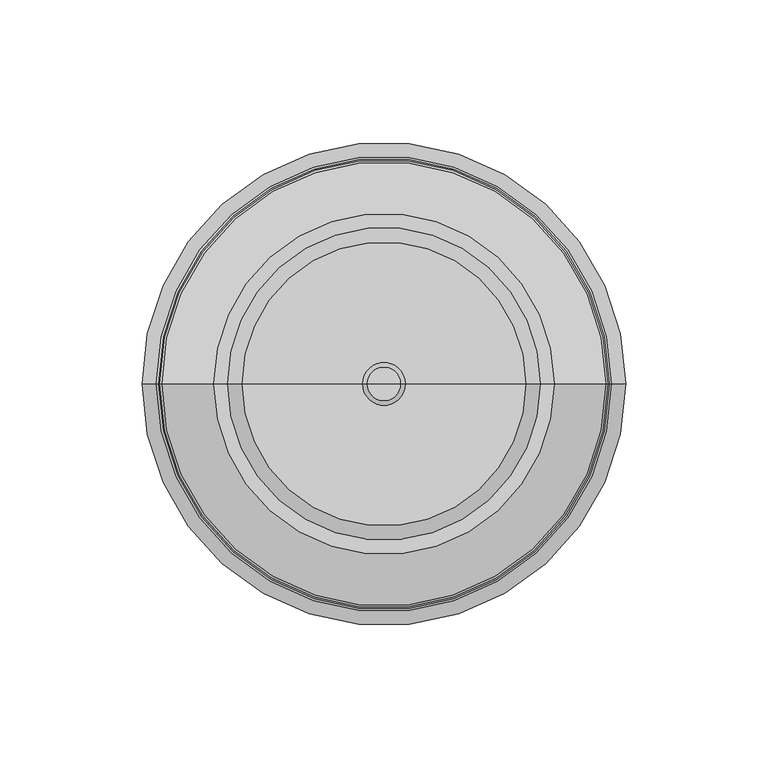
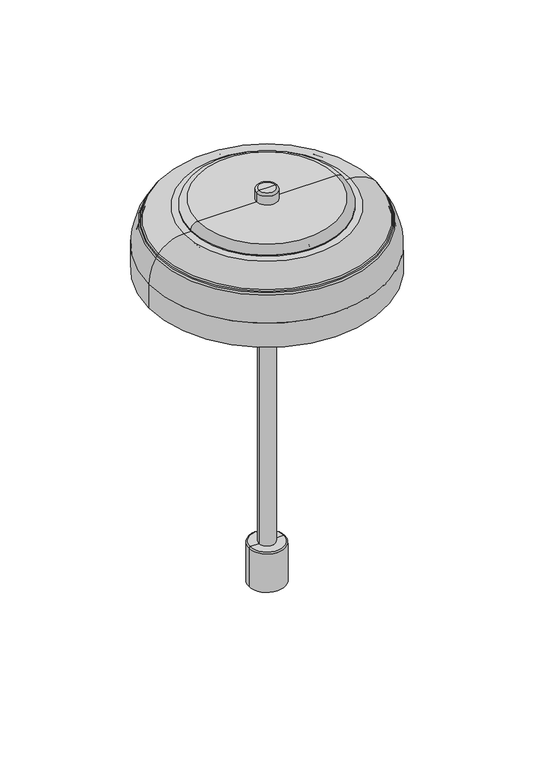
"""IFC4 building model written with IfcOpenShell, lengths in millimetres: light fixture geometry, Nuura - Blossi - Table In-Set Small : Nuura - Blossi - Table In-Set Small."""

from ifc_helpers import new_model, si_unit, point, frame, origin, origin_with_axes, place, context, project, spatial, polyline, circle_curve, ellipse_curve, trimmed, source, transform, mapped, element, save
from ifc_brep_helpers import plane_surface, cylinder_surface, revolved_surface, advanced_brep


def light_fixture_892723d8(model_context):
    return source(origin(), model_context, "Body", "AdvancedBrep", [
        advanced_brep(
        [(-60.0, 0.0, 281.2), (60.0, 0.0, 281.2), (0.0, 0.0, 281.2), (-74.2433676, 0.0, 275.3165279), (74.2433676, 0.0, 275.3165279), (-74.9468549, 0.0, 274.5804612), (74.9468549, 0.0, 274.5804612), (-76.2305487, 0.0, 272.9610633), (76.2305487, 0.0, 272.9610633), (-76.7866873, 0.0, 272.108081), (76.7866873, 0.0, 272.108081), (-82.0, 0.0, 254.5667504), (82.0, 0.0, 254.5667504), (-82.0, 0.0, 236.5667504), (82.0, 0.0, 236.5667504), (-85.0, 0.0, 236.5667504), (85.0, 0.0, 236.5667504), (-85.0, 0.0, 254.5667504), (85.0, 0.0, 254.5667504), (-80.1645125, 0.0, 272.4944598), (80.1645125, 0.0, 272.4944598), (-79.4063661, 0.0, 273.7976404), (79.4063661, 0.0, 273.7976404), (-78.9160333, 0.0, 274.5141966), (78.9160333, 0.0, 274.5141966), (-78.1680574, 0.0, 275.4519227), (78.1680574, 0.0, 275.4519227), (-60.0, 0.0, 284.2), (60.0, 0.0, 284.2), (0.0, 0.0, 284.2)],
        [
            (0, 1, circle_curve(frame((0.0, 0.0, 281.2), z_axis=(0.0, 0.0, -1.0), x_axis=(1.0, 0.0, 0.0)), 60.0)),
            (1, 2),
            (2, 0),
            (1, 0, circle_curve(frame((0.0, 0.0, 281.2), z_axis=(0.0, 0.0, -1.0), x_axis=(1.0, 0.0, 0.0)), 60.0)),
            (3, 4, circle_curve(frame((0.0, 0.0, 275.3165279), z_axis=(0.0, 0.0, -1.0), x_axis=(1.0, 0.0, 0.0)), 74.2433676)),
            (4, 1, circle_curve(frame((60.0, 0.0, 261.0172948), z_axis=(0.0, -1.0, 0.0), x_axis=(1.0, 0.0, 0.0)), 20.1827052)),
            (0, 3, circle_curve(frame((-60.0, 0.0, 261.0172948), z_axis=(0.0, -1.0, 0.0), x_axis=(-1.0, 0.0, 0.0)), 20.1827052)),
            (4, 3, circle_curve(frame((0.0, 0.0, 275.3165279), z_axis=(0.0, 0.0, -1.0), x_axis=(1.0, 0.0, 0.0)), 74.2433676)),
            (5, 6, circle_curve(frame((0.0, 0.0, 274.5804612), z_axis=(0.0, 0.0, -1.0), x_axis=(1.0, 0.0, 0.0)), 74.9468549)),
            (6, 4),
            (3, 5),
            (6, 5, circle_curve(frame((0.0, 0.0, 274.5804612), z_axis=(0.0, 0.0, -1.0), x_axis=(1.0, 0.0, 0.0)), 74.9468549)),
            (7, 8, circle_curve(frame((0.0, 0.0, 272.9610633), z_axis=(0.0, 0.0, -1.0), x_axis=(1.0, 0.0, 0.0)), 76.2305487)),
            (8, 6, circle_curve(frame((66.8599569, 0.0, 266.8515019), z_axis=(0.0, -1.0, 0.0), x_axis=(1.0, 0.0, 0.0)), 11.1863636)),
            (5, 7, circle_curve(frame((-66.8599569, 0.0, 266.8515019), z_axis=(0.0, -1.0, 0.0), x_axis=(-1.0, 0.0, 0.0)), 11.1863636)),
            (8, 7, circle_curve(frame((0.0, 0.0, 272.9610633), z_axis=(0.0, 0.0, -1.0), x_axis=(1.0, 0.0, 0.0)), 76.2305487)),
            (9, 10, circle_curve(frame((0.0, 0.0, 272.108081), z_axis=(0.0, 0.0, -1.0), x_axis=(1.0, 0.0, 0.0)), 76.7866873)),
            (10, 8),
            (7, 9),
            (10, 9, circle_curve(frame((0.0, 0.0, 272.108081), z_axis=(0.0, 0.0, -1.0), x_axis=(1.0, 0.0, 0.0)), 76.7866873)),
            (11, 12, circle_curve(frame((0.0, 0.0, 254.5667504), z_axis=(0.0, 0.0, -1.0), x_axis=(1.0, 0.0, 0.0)), 82.0)),
            (12, 10, circle_curve(frame((49.8825225, 0.0, 254.5667504), z_axis=(0.0, -1.0, 0.0), x_axis=(1.0, 0.0, 0.0)), 32.1174775)),
            (9, 11, circle_curve(frame((-49.8825225, 0.0, 254.5667504), z_axis=(0.0, -1.0, 0.0), x_axis=(-1.0, 0.0, 0.0)), 32.1174775)),
            (12, 11, circle_curve(frame((0.0, 0.0, 254.5667504), z_axis=(0.0, 0.0, -1.0), x_axis=(1.0, 0.0, 0.0)), 82.0)),
            (13, 14, circle_curve(frame((0.0, 0.0, 236.5667504), z_axis=(0.0, 0.0, -1.0), x_axis=(1.0, 0.0, 0.0)), 82.0)),
            (14, 12),
            (11, 13),
            (14, 13, circle_curve(frame((0.0, 0.0, 236.5667504), z_axis=(0.0, 0.0, -1.0), x_axis=(1.0, 0.0, 0.0)), 82.0)),
            (15, 16, circle_curve(frame((0.0, 0.0, 236.5667504), z_axis=(0.0, 0.0, -1.0), x_axis=(1.0, 0.0, 0.0)), 85.0)),
            (16, 14),
            (13, 15),
            (16, 15, circle_curve(frame((0.0, 0.0, 236.5667504), z_axis=(0.0, 0.0, -1.0), x_axis=(1.0, 0.0, 0.0)), 85.0)),
            (17, 18, circle_curve(frame((0.0, 0.0, 254.5667504), z_axis=(0.0, 0.0, -1.0), x_axis=(1.0, 0.0, 0.0)), 85.0)),
            (18, 16),
            (15, 17),
            (18, 17, circle_curve(frame((0.0, 0.0, 254.5667504), z_axis=(0.0, 0.0, -1.0), x_axis=(1.0, 0.0, 0.0)), 85.0)),
            (19, 20, circle_curve(frame((0.0, 0.0, 272.4944598), z_axis=(0.0, 0.0, -1.0), x_axis=(1.0, 0.0, 0.0)), 80.1645125)),
            (20, 18, circle_curve(frame((49.3485064, 0.0, 254.5667504), z_axis=(0.0, 1.0, 0.0), x_axis=(1.0, 0.0, 0.0)), 35.6514936)),
            (17, 19, circle_curve(frame((-49.3485064, 0.0, 254.5667504), z_axis=(0.0, 1.0, 0.0), x_axis=(-1.0, 0.0, 0.0)), 35.6514936)),
            (20, 19, circle_curve(frame((0.0, 0.0, 272.4944598), z_axis=(0.0, 0.0, -1.0), x_axis=(1.0, 0.0, 0.0)), 80.1645125)),
            (21, 22, circle_curve(frame((0.0, 0.0, 273.7976404), z_axis=(0.0, 0.0, -1.0), x_axis=(1.0, 0.0, 0.0)), 79.4063661)),
            (22, 20),
            (19, 21),
            (22, 21, circle_curve(frame((0.0, 0.0, 273.7976404), z_axis=(0.0, 0.0, -1.0), x_axis=(1.0, 0.0, 0.0)), 79.4063661)),
            (23, 24, circle_curve(frame((0.0, 0.0, 274.5141966), z_axis=(0.0, 0.0, -1.0), x_axis=(1.0, 0.0, 0.0)), 78.9160333)),
            (24, 22, circle_curve(frame((74.2754735, 0.0, 270.8126608), z_axis=(0.0, 1.0, 0.0), x_axis=(1.0, 0.0, 0.0)), 5.9360056)),
            (21, 23, circle_curve(frame((-74.2754735, 0.0, 270.8126608), z_axis=(0.0, 1.0, 0.0), x_axis=(-1.0, 0.0, 0.0)), 5.9360056)),
            (24, 23, circle_curve(frame((0.0, 0.0, 274.5141966), z_axis=(0.0, 0.0, -1.0), x_axis=(1.0, 0.0, 0.0)), 78.9160333)),
            (25, 26, circle_curve(frame((0.0, 0.0, 275.4519227), z_axis=(0.0, 0.0, -1.0), x_axis=(1.0, 0.0, 0.0)), 78.1680574)),
            (26, 24),
            (23, 25),
            (26, 25, circle_curve(frame((0.0, 0.0, 275.4519227), z_axis=(0.0, 0.0, -1.0), x_axis=(1.0, 0.0, 0.0)), 78.1680574)),
            (27, 28, circle_curve(frame((0.0, 0.0, 284.2), z_axis=(0.0, 0.0, -1.0), x_axis=(1.0, 0.0, 0.0)), 60.0)),
            (28, 26, circle_curve(frame((60.0, 0.0, 260.9601981), z_axis=(0.0, 1.0, 0.0), x_axis=(1.0, 0.0, 0.0)), 23.2398019)),
            (25, 27, circle_curve(frame((-60.0, 0.0, 260.9601981), z_axis=(0.0, 1.0, 0.0), x_axis=(-1.0, 0.0, 0.0)), 23.2398019)),
            (28, 27, circle_curve(frame((0.0, 0.0, 284.2), z_axis=(0.0, 0.0, -1.0), x_axis=(1.0, 0.0, 0.0)), 60.0)),
            (29, 28),
            (27, 29),
        ],
        [
            plane_surface(frame((0.0, 0.0, 281.2), z_axis=(0.0, 0.0, -1.0), x_axis=(1.0, 0.0, 0.0))),
            revolved_surface(trimmed(ellipse_curve(frame((60.0, 0.0, 261.0172948), z_axis=(0.0, 1.0, 0.0), x_axis=(1.0, 0.0, 0.0)), 20.1827052, 20.1827052), [point((60.0, 0.0, 281.2))], [point((74.2433676, 0.0, 275.3165279))], True, "CARTESIAN"), (0.0, 0.0, 330.5834276), (0.0, 0.0, 1.0)),
            revolved_surface(polyline([(74.2433676, 0.0, 275.3165279), (74.9468549, 0.0, 274.5804612)]), (0.0, 0.0, 330.5834276), (0.0, 0.0, 1.0)),
            revolved_surface(trimmed(ellipse_curve(frame((66.8599569, 0.0, 266.8515019), z_axis=(0.0, 1.0, 0.0), x_axis=(1.0, 0.0, 0.0)), 11.1863636, 11.1863636), [point((74.9468549, 0.0, 274.5804612))], [point((76.2305487, 0.0, 272.9610633))], True, "CARTESIAN"), (0.0, 0.0, 330.5834276), (0.0, 0.0, 1.0)),
            revolved_surface(polyline([(76.2305487, 0.0, 272.9610633), (76.7866873, 0.0, 272.108081)]), (0.0, 0.0, 330.5834276), (0.0, 0.0, 1.0)),
            revolved_surface(trimmed(ellipse_curve(frame((49.8825225, 0.0, 254.5667504), z_axis=(0.0, 1.0, 0.0), x_axis=(1.0, 0.0, 0.0)), 32.1174775, 32.1174775), [point((76.7866873, 0.0, 272.108081))], [point((82.0, 0.0, 254.5667504))], True, "CARTESIAN"), (0.0, 0.0, 330.5834276), (0.0, 0.0, 1.0)),
            revolved_surface(polyline([(82.0, 0.0, 254.5667504), (82.0, 0.0, 236.5667504)]), (0.0, 0.0, 330.5834276), (0.0, 0.0, 1.0)),
            plane_surface(frame((0.0, 0.0, 236.5667504), z_axis=(0.0, 0.0, -1.0), x_axis=(1.0, 0.0, 0.0))),
            cylinder_surface(frame((0.0, 0.0, 330.5834276), z_axis=(0.0, 0.0, 1.0), x_axis=(1.0, 0.0, 0.0)), 85.0),
            revolved_surface(trimmed(ellipse_curve(frame((49.3485064, 0.0, 254.5667504), z_axis=(0.0, -1.0, 0.0), x_axis=(1.0, 0.0, 0.0)), 35.6514936, 35.6514936), [point((85.0, 0.0, 254.5667504))], [point((80.1645125, 0.0, 272.4944598))], True, "CARTESIAN"), (0.0, 0.0, 330.5834276), (0.0, 0.0, 1.0)),
            revolved_surface(polyline([(80.1645125, 0.0, 272.4944598), (79.4063661, 0.0, 273.7976404)]), (0.0, 0.0, 330.5834276), (0.0, 0.0, 1.0)),
            revolved_surface(trimmed(ellipse_curve(frame((74.2754735, 0.0, 270.8126608), z_axis=(0.0, -1.0, 0.0), x_axis=(1.0, 0.0, 0.0)), 5.9360056, 5.9360056), [point((79.4063661, 0.0, 273.7976404))], [point((78.9160333, 0.0, 274.5141966))], True, "CARTESIAN"), (0.0, 0.0, 330.5834276), (0.0, 0.0, 1.0)),
            revolved_surface(polyline([(78.9160333, 0.0, 274.5141966), (78.1680574, 0.0, 275.4519227)]), (0.0, 0.0, 330.5834276), (0.0, 0.0, 1.0)),
            revolved_surface(trimmed(ellipse_curve(frame((60.0, 0.0, 260.9601981), z_axis=(0.0, -1.0, 0.0), x_axis=(1.0, 0.0, 0.0)), 23.2398019, 23.2398019), [point((78.1680574, 0.0, 275.4519227))], [point((60.0, 0.0, 284.2))], True, "CARTESIAN"), (0.0, 0.0, 330.5834276), (0.0, 0.0, 1.0)),
            plane_surface(frame((0.0, 0.0, 284.2), z_axis=(0.0, 0.0, 1.0), x_axis=(1.0, 0.0, 0.0))),
        ],
        [
            (0, [[1, 2, 3]]),
            (0, [[4, -3, -2]]),
            (1, [[5, 6, -1, 7]]),
            (1, [[8, -7, -4, -6]]),
            (2, [[9, 10, -5, 11]]),
            (2, [[12, -11, -8, -10]]),
            (3, [[13, 14, -9, 15]]),
            (3, [[16, -15, -12, -14]]),
            (4, [[17, 18, -13, 19]]),
            (4, [[20, -19, -16, -18]]),
            (5, [[21, 22, -17, 23]]),
            (5, [[24, -23, -20, -22]]),
            (6, [[25, 26, -21, 27]]),
            (6, [[28, -27, -24, -26]]),
            (7, [[29, 30, -25, 31]]),
            (7, [[32, -31, -28, -30]]),
            (8, [[33, 34, -29, 35]]),
            (8, [[36, -35, -32, -34]]),
            (9, [[37, 38, -33, 39]]),
            (9, [[40, -39, -36, -38]]),
            (10, [[41, 42, -37, 43]]),
            (10, [[44, -43, -40, -42]]),
            (11, [[45, 46, -41, 47]]),
            (11, [[48, -47, -44, -46]]),
            (12, [[49, 50, -45, 51]]),
            (12, [[52, -51, -48, -50]]),
            (13, [[53, 54, -49, 55]]),
            (13, [[56, -55, -52, -54]]),
            (14, [[57, -53, 58]]),
            (14, [[-58, -56, -57]]),
        ],
    ),
        advanced_brep(
        [(-5.85, 0.0, 274.3165279), (5.85, 0.0, 274.3165279), (5.85, 0.0, 251.5), (-5.85, 0.0, 251.5), (0.0, 0.0, 274.3165279), (0.0, 0.0, 251.5)],
        [
            (0, 1, circle_curve(frame((0.0, 0.0, 274.3165279), z_axis=(0.0, 0.0, -1.0), x_axis=(1.0, 0.0, 0.0)), 5.85)),
            (1, 2),
            (2, 3, circle_curve(frame((0.0, 0.0, 251.5), z_axis=(0.0, 0.0, 1.0), x_axis=(1.0, 0.0, 0.0)), 5.85)),
            (3, 0),
            (1, 0, circle_curve(frame((0.0, 0.0, 274.3165279), z_axis=(0.0, 0.0, -1.0), x_axis=(1.0, 0.0, 0.0)), 5.85)),
            (3, 2, circle_curve(frame((0.0, 0.0, 251.5), z_axis=(0.0, 0.0, 1.0), x_axis=(1.0, 0.0, 0.0)), 5.85)),
            (4, 1),
            (0, 4),
            (2, 5),
            (5, 3),
        ],
        [
            cylinder_surface(frame((0.0, 0.0, -478.1232635), z_axis=(0.0, 0.0, 1.0), x_axis=(1.0, 0.0, 0.0)), 5.85),
            plane_surface(frame((0.0, 0.0, 274.3165279), z_axis=(0.0, 0.0, 1.0), x_axis=(1.0, 0.0, 0.0))),
            plane_surface(frame((0.0, 0.0, 251.5), z_axis=(0.0, 0.0, -1.0), x_axis=(1.0, 0.0, 0.0))),
        ],
        [
            (0, [[1, 2, 3, 4]]),
            (0, [[5, -4, 6, -2]]),
            (1, [[7, -1, 8]]),
            (1, [[-8, -5, -7]]),
            (2, [[-3, 9, 10]]),
            (2, [[-6, -10, -9]]),
        ],
    ),
        advanced_brep(
        [(-13.0, 0.0, 29.0), (13.0, 0.0, 29.0), (13.0, 0.0, 0.0), (-13.0, 0.0, 0.0), (-5.85, 0.0, 30.0), (5.85, 0.0, 30.0), (12.0, 0.0, 30.0), (-12.0, 0.0, 30.0), (-5.85, 0.0, 245.5434833), (5.85, 0.0, 245.5434833), (-24.651321, 0.0, 245.5434833), (24.651321, 0.0, 245.5434833), (-27.651321, 0.0, 248.5434833), (27.651321, 0.0, 248.5434833), (-24.651321, 0.0, 251.5434833), (24.651321, 0.0, 251.5434833), (0.0, 0.0, 251.5434833), (0.0, 0.0, 0.0)],
        [
            (0, 1, circle_curve(frame((0.0, 0.0, 29.0), z_axis=(0.0, 0.0, -1.0), x_axis=(1.0, 0.0, 0.0)), 13.0)),
            (1, 2),
            (2, 3, circle_curve(origin_with_axes(), 13.0)),
            (3, 0),
            (1, 0, circle_curve(frame((0.0, 0.0, 29.0), z_axis=(0.0, 0.0, -1.0), x_axis=(1.0, 0.0, 0.0)), 13.0)),
            (3, 2, circle_curve(origin_with_axes(), 13.0)),
            (4, 5, circle_curve(frame((0.0, 0.0, 30.0), z_axis=(0.0, 0.0, -1.0), x_axis=(1.0, 0.0, 0.0)), 5.85)),
            (5, 6),
            (6, 7, circle_curve(frame((0.0, 0.0, 30.0), z_axis=(0.0, 0.0, 1.0), x_axis=(1.0, 0.0, 0.0)), 12.0)),
            (7, 4),
            (5, 4, circle_curve(frame((0.0, 0.0, 30.0), z_axis=(0.0, 0.0, -1.0), x_axis=(1.0, 0.0, 0.0)), 5.85)),
            (7, 6, circle_curve(frame((0.0, 0.0, 30.0), z_axis=(0.0, 0.0, 1.0), x_axis=(1.0, 0.0, 0.0)), 12.0)),
            (8, 9, circle_curve(frame((0.0, 0.0, 245.5434833), z_axis=(0.0, 0.0, -1.0), x_axis=(1.0, 0.0, 0.0)), 5.85)),
            (9, 5),
            (4, 8),
            (9, 8, circle_curve(frame((0.0, 0.0, 245.5434833), z_axis=(0.0, 0.0, -1.0), x_axis=(1.0, 0.0, 0.0)), 5.85)),
            (6, 1, circle_curve(frame((12.0, 0.0, 29.0), z_axis=(0.0, 1.0, 0.0), x_axis=(1.0, 0.0, 0.0)), 1.0)),
            (0, 7, circle_curve(frame((-12.0, 0.0, 29.0), z_axis=(0.0, 1.0, 0.0), x_axis=(-1.0, 0.0, 0.0)), 1.0)),
            (10, 11, circle_curve(frame((0.0, 0.0, 245.5434833), z_axis=(0.0, 0.0, -1.0), x_axis=(1.0, 0.0, 0.0)), 24.651321)),
            (11, 9),
            (8, 10),
            (11, 10, circle_curve(frame((0.0, 0.0, 245.5434833), z_axis=(0.0, 0.0, -1.0), x_axis=(1.0, 0.0, 0.0)), 24.651321)),
            (12, 13, circle_curve(frame((0.0, 0.0, 248.5434833), z_axis=(0.0, 0.0, -1.0), x_axis=(1.0, 0.0, 0.0)), 27.651321)),
            (13, 11, circle_curve(frame((24.651321, 0.0, 248.5434833), z_axis=(0.0, 1.0, 0.0), x_axis=(1.0, 0.0, 0.0)), 3.0)),
            (10, 12, circle_curve(frame((-24.651321, 0.0, 248.5434833), z_axis=(0.0, 1.0, 0.0), x_axis=(-1.0, 0.0, 0.0)), 3.0)),
            (13, 12, circle_curve(frame((0.0, 0.0, 248.5434833), z_axis=(0.0, 0.0, -1.0), x_axis=(1.0, 0.0, 0.0)), 27.651321)),
            (14, 15, circle_curve(frame((0.0, 0.0, 251.5434833), z_axis=(0.0, 0.0, -1.0), x_axis=(1.0, 0.0, 0.0)), 24.651321)),
            (15, 13, circle_curve(frame((24.651321, 0.0, 248.5434833), z_axis=(0.0, 1.0, 0.0), x_axis=(1.0, 0.0, 0.0)), 3.0)),
            (12, 14, circle_curve(frame((-24.651321, 0.0, 248.5434833), z_axis=(0.0, 1.0, 0.0), x_axis=(-1.0, 0.0, 0.0)), 3.0)),
            (15, 14, circle_curve(frame((0.0, 0.0, 251.5434833), z_axis=(0.0, 0.0, -1.0), x_axis=(1.0, 0.0, 0.0)), 24.651321)),
            (16, 15),
            (14, 16),
            (2, 17),
            (17, 3),
        ],
        [
            cylinder_surface(frame((0.0, 0.0, -60.0), z_axis=(0.0, 0.0, 1.0), x_axis=(1.0, 0.0, 0.0)), 13.0),
            plane_surface(frame((0.0, 0.0, 30.0), z_axis=(0.0, 0.0, 1.0), x_axis=(1.0, 0.0, 0.0))),
            cylinder_surface(frame((0.0, 0.0, -60.0), z_axis=(0.0, 0.0, 1.0), x_axis=(1.0, 0.0, 0.0)), 5.85),
            revolved_surface(trimmed(ellipse_curve(frame((12.0, 0.0, 29.0), z_axis=(0.0, -1.0, 0.0), x_axis=(1.0, 0.0, 0.0)), 1.0, 1.0), [point((13.0, 0.0, 29.0))], [point((12.0, 0.0, 30.0))], True, "CARTESIAN"), (0.0, 0.0, -60.0), (0.0, 0.0, 1.0)),
            plane_surface(frame((0.0, 0.0, 245.5434833), z_axis=(0.0, 0.0, -1.0), x_axis=(1.0, 0.0, 0.0))),
            revolved_surface(trimmed(ellipse_curve(frame((24.651321, 0.0, 248.5434833), z_axis=(0.0, -1.0, 0.0), x_axis=(1.0, 0.0, 0.0)), 3.0, 3.0), [point((24.651321, 0.0, 245.5434833))], [point((27.651321, 0.0, 248.5434833))], True, "CARTESIAN"), (0.0, 0.0, -60.0), (0.0, 0.0, 1.0)),
            revolved_surface(trimmed(ellipse_curve(frame((24.651321, 0.0, 248.5434833), z_axis=(0.0, -1.0, 0.0), x_axis=(1.0, 0.0, 0.0)), 3.0, 3.0), [point((27.651321, 0.0, 248.5434833))], [point((24.651321, 0.0, 251.5434833))], True, "CARTESIAN"), (0.0, 0.0, -60.0), (0.0, 0.0, 1.0)),
            plane_surface(frame((0.0, 0.0, 251.5434833), z_axis=(0.0, 0.0, 1.0), x_axis=(1.0, 0.0, 0.0))),
            plane_surface(frame((0.0, 0.0, 0.0), z_axis=(0.0, 0.0, -1.0), x_axis=(1.0, 0.0, 0.0))),
        ],
        [
            (0, [[1, 2, 3, 4]]),
            (0, [[5, -4, 6, -2]]),
            (1, [[7, 8, 9, 10]]),
            (1, [[11, -10, 12, -8]]),
            (2, [[13, 14, -7, 15]]),
            (2, [[16, -15, -11, -14]]),
            (3, [[-9, 17, -1, 18]]),
            (3, [[-12, -18, -5, -17]]),
            (4, [[19, 20, -13, 21]]),
            (4, [[22, -21, -16, -20]]),
            (5, [[23, 24, -19, 25]]),
            (5, [[26, -25, -22, -24]]),
            (6, [[27, 28, -23, 29]]),
            (6, [[30, -29, -26, -28]]),
            (7, [[31, -27, 32]]),
            (7, [[-32, -30, -31]]),
            (8, [[-3, 33, 34]]),
            (8, [[-6, -34, -33]]),
        ],
    ),
        advanced_brep(
        [(-55.0, 0.0, 279.2), (55.0, 0.0, 279.2), (50.0, 0.0, 274.2), (-50.0, 0.0, 274.2), (-55.0, 0.0, 280.2), (55.0, 0.0, 280.2), (0.0, 0.0, 280.2), (0.0, 0.0, 274.2)],
        [
            (0, 1, circle_curve(frame((0.0, 0.0, 279.2), z_axis=(0.0, 0.0, -1.0), x_axis=(1.0, 0.0, 0.0)), 55.0)),
            (1, 2, circle_curve(frame((50.0, 0.0, 279.2), z_axis=(0.0, 1.0, 0.0), x_axis=(1.0, 0.0, 0.0)), 5.0)),
            (2, 3, circle_curve(frame((0.0, 0.0, 274.2), z_axis=(0.0, 0.0, 1.0), x_axis=(1.0, 0.0, 0.0)), 50.0)),
            (3, 0, circle_curve(frame((-50.0, 0.0, 279.2), z_axis=(0.0, 1.0, 0.0), x_axis=(-1.0, 0.0, 0.0)), 5.0)),
            (1, 0, circle_curve(frame((0.0, 0.0, 279.2), z_axis=(0.0, 0.0, -1.0), x_axis=(1.0, 0.0, 0.0)), 55.0)),
            (3, 2, circle_curve(frame((0.0, 0.0, 274.2), z_axis=(0.0, 0.0, 1.0), x_axis=(1.0, 0.0, 0.0)), 50.0)),
            (4, 5, circle_curve(frame((0.0, 0.0, 280.2), z_axis=(0.0, 0.0, -1.0), x_axis=(1.0, 0.0, 0.0)), 55.0)),
            (5, 1),
            (0, 4),
            (5, 4, circle_curve(frame((0.0, 0.0, 280.2), z_axis=(0.0, 0.0, -1.0), x_axis=(1.0, 0.0, 0.0)), 55.0)),
            (6, 5),
            (4, 6),
            (2, 7),
            (7, 3),
        ],
        [
            revolved_surface(trimmed(ellipse_curve(frame((50.0, 0.0, 279.2), z_axis=(0.0, -1.0, 0.0), x_axis=(1.0, 0.0, 0.0)), 5.0, 5.0), [point((50.0, 0.0, 274.2))], [point((55.0, 0.0, 279.2))], True, "CARTESIAN"), (0.0, 0.0, -60.0), (0.0, 0.0, 1.0)),
            cylinder_surface(frame((0.0, 0.0, -60.0), z_axis=(0.0, 0.0, 1.0), x_axis=(1.0, 0.0, 0.0)), 55.0),
            plane_surface(frame((0.0, 0.0, 280.2), z_axis=(0.0, 0.0, 1.0), x_axis=(1.0, 0.0, 0.0))),
            plane_surface(frame((0.0, 0.0, 274.2), z_axis=(0.0, 0.0, -1.0), x_axis=(1.0, 0.0, 0.0))),
        ],
        [
            (0, [[1, 2, 3, 4]]),
            (0, [[5, -4, 6, -2]]),
            (1, [[7, 8, -1, 9]]),
            (1, [[10, -9, -5, -8]]),
            (2, [[11, -7, 12]]),
            (2, [[-12, -10, -11]]),
            (3, [[-3, 13, 14]]),
            (3, [[-6, -14, -13]]),
        ],
    ),
        advanced_brep(
        [(-7.5, 0.0, 296.6675236), (7.5, 0.0, 296.6675236), (7.5, 0.0, 290.2), (-7.5, 0.0, 290.2), (-5.9675236, 0.0, 298.2), (5.9675236, 0.0, 298.2), (0.0, 0.0, 298.2), (-55.0, 0.0, 284.2), (55.0, 0.0, 284.2), (0.0, 0.0, 284.2), (-55.0, 0.0, 285.2), (55.0, 0.0, 285.2), (-50.0, 0.0, 290.2), (50.0, 0.0, 290.2)],
        [
            (0, 1, circle_curve(frame((0.0, 0.0, 296.6675236), z_axis=(0.0, 0.0, -1.0), x_axis=(1.0, 0.0, 0.0)), 7.5)),
            (1, 2),
            (2, 3, circle_curve(frame((0.0, 0.0, 290.2), z_axis=(0.0, 0.0, 1.0), x_axis=(1.0, 0.0, 0.0)), 7.5)),
            (3, 0),
            (1, 0, circle_curve(frame((0.0, 0.0, 296.6675236), z_axis=(0.0, 0.0, -1.0), x_axis=(1.0, 0.0, 0.0)), 7.5)),
            (3, 2, circle_curve(frame((0.0, 0.0, 290.2), z_axis=(0.0, 0.0, 1.0), x_axis=(1.0, 0.0, 0.0)), 7.5)),
            (4, 5, circle_curve(frame((0.0, 0.0, 298.2), z_axis=(0.0, 0.0, -1.0), x_axis=(1.0, 0.0, 0.0)), 5.9675236)),
            (5, 1, circle_curve(frame((5.9675236, 0.0, 296.6675236), z_axis=(0.0, 1.0, 0.0), x_axis=(1.0, 0.0, 0.0)), 1.5324764)),
            (0, 4, circle_curve(frame((-5.9675236, 0.0, 296.6675236), z_axis=(0.0, 1.0, 0.0), x_axis=(-1.0, 0.0, 0.0)), 1.5324764)),
            (5, 4, circle_curve(frame((0.0, 0.0, 298.2), z_axis=(0.0, 0.0, -1.0), x_axis=(1.0, 0.0, 0.0)), 5.9675236)),
            (6, 5),
            (4, 6),
            (7, 8, circle_curve(frame((0.0, 0.0, 284.2), z_axis=(0.0, 0.0, -1.0), x_axis=(1.0, 0.0, 0.0)), 55.0)),
            (8, 9),
            (9, 7),
            (8, 7, circle_curve(frame((0.0, 0.0, 284.2), z_axis=(0.0, 0.0, -1.0), x_axis=(1.0, 0.0, 0.0)), 55.0)),
            (10, 11, circle_curve(frame((0.0, 0.0, 285.2), z_axis=(0.0, 0.0, -1.0), x_axis=(1.0, 0.0, 0.0)), 55.0)),
            (11, 8),
            (7, 10),
            (11, 10, circle_curve(frame((0.0, 0.0, 285.2), z_axis=(0.0, 0.0, -1.0), x_axis=(1.0, 0.0, 0.0)), 55.0)),
            (12, 13, circle_curve(frame((0.0, 0.0, 290.2), z_axis=(0.0, 0.0, -1.0), x_axis=(1.0, 0.0, 0.0)), 50.0)),
            (13, 11, circle_curve(frame((50.0, 0.0, 285.2), z_axis=(0.0, 1.0, 0.0), x_axis=(1.0, 0.0, 0.0)), 5.0)),
            (10, 12, circle_curve(frame((-50.0, 0.0, 285.2), z_axis=(0.0, 1.0, 0.0), x_axis=(-1.0, 0.0, 0.0)), 5.0)),
            (13, 12, circle_curve(frame((0.0, 0.0, 290.2), z_axis=(0.0, 0.0, -1.0), x_axis=(1.0, 0.0, 0.0)), 50.0)),
            (2, 13),
            (12, 3),
        ],
        [
            cylinder_surface(frame((0.0, 0.0, -60.0), z_axis=(0.0, 0.0, 1.0), x_axis=(1.0, 0.0, 0.0)), 7.5),
            revolved_surface(trimmed(ellipse_curve(frame((5.9675236, 0.0, 296.6675236), z_axis=(0.0, -1.0, 0.0), x_axis=(1.0, 0.0, 0.0)), 1.5324764, 1.5324764), [point((7.5, 0.0, 296.6675236))], [point((5.9675236, 0.0, 298.2))], True, "CARTESIAN"), (0.0, 0.0, -60.0), (0.0, 0.0, 1.0)),
            plane_surface(frame((0.0, 0.0, 298.2), z_axis=(0.0, 0.0, 1.0), x_axis=(1.0, 0.0, 0.0))),
            plane_surface(frame((0.0, 0.0, 284.2), z_axis=(0.0, 0.0, -1.0), x_axis=(1.0, 0.0, 0.0))),
            cylinder_surface(frame((0.0, 0.0, -60.0), z_axis=(0.0, 0.0, 1.0), x_axis=(1.0, 0.0, 0.0)), 55.0),
            revolved_surface(trimmed(ellipse_curve(frame((50.0, 0.0, 285.2), z_axis=(0.0, -1.0, 0.0), x_axis=(1.0, 0.0, 0.0)), 5.0, 5.0), [point((55.0, 0.0, 285.2))], [point((50.0, 0.0, 290.2))], True, "CARTESIAN"), (0.0, 0.0, -60.0), (0.0, 0.0, 1.0)),
            plane_surface(frame((0.0, 0.0, 290.2), z_axis=(0.0, 0.0, 1.0), x_axis=(1.0, 0.0, 0.0))),
        ],
        [
            (0, [[1, 2, 3, 4]]),
            (0, [[5, -4, 6, -2]]),
            (1, [[7, 8, -1, 9]]),
            (1, [[10, -9, -5, -8]]),
            (2, [[11, -7, 12]]),
            (2, [[-12, -10, -11]]),
            (3, [[13, 14, 15]]),
            (3, [[16, -15, -14]]),
            (4, [[17, 18, -13, 19]]),
            (4, [[20, -19, -16, -18]]),
            (5, [[21, 22, -17, 23]]),
            (5, [[24, -23, -20, -22]]),
            (6, [[-3, 25, -21, 26]]),
            (6, [[-6, -26, -24, -25]]),
        ],
    ),
    ])


if __name__ == "__main__":
    model = new_model("IFC4")
    model_context = context("Model", 3, world=origin())
    ifc_project = project(units=[si_unit("LENGTHUNIT", "METRE", prefix="MILLI")], contexts=[model_context])
    site = spatial("IfcSite", under=ifc_project)
    building = spatial("IfcBuilding", under=site)
    placement = place(None, origin())
    light_fixture_shape = light_fixture_892723d8(model_context)
    element("IfcLightFixture", 1, ObjectType="Nuura - Blossi - Table In-Set Small : Nuura - Blossi - Table In-Set Small", at=placement, inside=building, context=model_context, shape_type="MappedRepresentation", body=[
        mapped(light_fixture_shape, transform((0.0, 0.0, 0.0), x_axis=(1.0, 0.0, 0.0), y_axis=(0.0, 1.0, 0.0), z_axis=(0.0, 0.0, 1.0))),
    ])
    save(model, "model.ifc")
